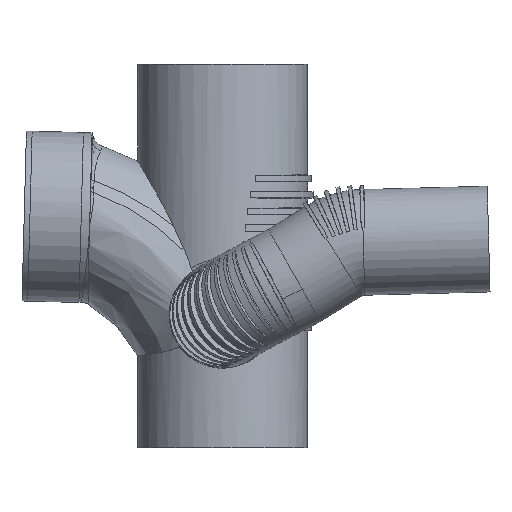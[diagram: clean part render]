
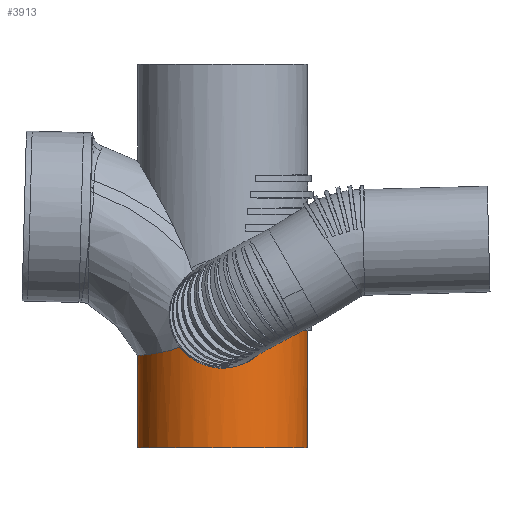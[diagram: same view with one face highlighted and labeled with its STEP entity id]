
A CAD part, front view. The second image highlights one B-rep face of the part: STEP entity #3913.
In plain terms, the highlighted cylindrical face has radius 45.188 mm (diameter 90.375 mm), a partial arc.
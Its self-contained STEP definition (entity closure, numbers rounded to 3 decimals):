
#239=FACE_OUTER_BOUND('',#468,.T.);
#468=EDGE_LOOP('',(#2419,#2420,#2421,#2422,#2423,#2424,#2425,#2426,#2427));
#718=LINE('',#5549,#805);
#719=LINE('',#5553,#806);
#805=VECTOR('',#4510,1.);
#806=VECTOR('',#4513,45.188);
#889=CIRCLE('',#4165,45.189);
#890=CIRCLE('',#4166,27.211);
#896=CIRCLE('',#4173,45.187);
#1054=B_SPLINE_CURVE_WITH_KNOTS('',3,(#5514,#5515,#5516,#5517,#5518,#5519,
#5520,#5521),.UNSPECIFIED.,.F.,.F.,(4,2,2,4),(-2.334,-1.752,
-1.166,0.),.UNSPECIFIED.);
#1055=B_SPLINE_CURVE_WITH_KNOTS('',3,(#5523,#5524,#5525,#5526,#5527,#5528,
#5529,#5530,#5531,#5532,#5533,#5534),.UNSPECIFIED.,.F.,.F.,(4,2,2,2,2,4),
(-4.077,-3.545,-3.015,-2.04,
-1.048,0.),.UNSPECIFIED.);
#1056=B_SPLINE_CURVE_WITH_KNOTS('',3,(#5536,#5537,#5538,#5539,#5540,#5541,
#5542,#5543,#5544,#5545,#5546,#5547),.UNSPECIFIED.,.F.,.F.,(4,2,2,2,2,4),
(-4.91,-3.562,-2.376,-0.9,
-0.426,0.),.UNSPECIFIED.);
#1057=B_SPLINE_CURVE_WITH_KNOTS('',3,(#5554,#5555,#5556,#5557,#5558,#5559,
#5560,#5561,#5562,#5563),.UNSPECIFIED.,.F.,.F.,(4,2,2,2,4),(-3.4,
-2.553,-1.702,-0.851,0.),
 .UNSPECIFIED.);
#1381=VERTEX_POINT('',#5254);
#1382=VERTEX_POINT('',#5274);
#1383=VERTEX_POINT('',#5276);
#1405=VERTEX_POINT('',#5513);
#1406=VERTEX_POINT('',#5522);
#1407=VERTEX_POINT('',#5535);
#1408=VERTEX_POINT('',#5548);
#1409=VERTEX_POINT('',#5550);
#1410=VERTEX_POINT('',#5552);
#1781=EDGE_CURVE('',#1381,#1382,#889,.F.);
#1782=EDGE_CURVE('',#1382,#1383,#890,.T.);
#1805=EDGE_CURVE('',#1381,#1405,#1054,.T.);
#1806=EDGE_CURVE('',#1405,#1406,#1055,.T.);
#1807=EDGE_CURVE('',#1406,#1407,#1056,.T.);
#1808=EDGE_CURVE('',#1407,#1408,#718,.T.);
#1809=EDGE_CURVE('',#1409,#1408,#896,.T.);
#1810=EDGE_CURVE('',#1410,#1409,#719,.T.);
#1811=EDGE_CURVE('',#1383,#1410,#1057,.T.);
#2419=ORIENTED_EDGE('',*,*,#1805,.T.);
#2420=ORIENTED_EDGE('',*,*,#1806,.T.);
#2421=ORIENTED_EDGE('',*,*,#1807,.T.);
#2422=ORIENTED_EDGE('',*,*,#1808,.T.);
#2423=ORIENTED_EDGE('',*,*,#1809,.F.);
#2424=ORIENTED_EDGE('',*,*,#1810,.F.);
#2425=ORIENTED_EDGE('',*,*,#1811,.F.);
#2426=ORIENTED_EDGE('',*,*,#1782,.F.);
#2427=ORIENTED_EDGE('',*,*,#1781,.F.);
#3622=CYLINDRICAL_SURFACE('',#4172,45.187);
#3913=ADVANCED_FACE('',(#239),#3622,.T.);
#4165=AXIS2_PLACEMENT_3D('',#5275,#4491,#4492);
#4166=AXIS2_PLACEMENT_3D('',#5277,#4493,#4494);
#4172=AXIS2_PLACEMENT_3D('',#5512,#4508,#4509);
#4173=AXIS2_PLACEMENT_3D('',#5551,#4511,#4512);
#4491=DIRECTION('center_axis',(-0.008,0.,
-1.));
#4492=DIRECTION('ref_axis',(0.628,-0.778,-0.005));
#4493=DIRECTION('center_axis',(0.658,-0.753,0.024));
#4494=DIRECTION('ref_axis',(0.714,0.613,-0.338));
#4508=DIRECTION('center_axis',(0.,0.,
-1.));
#4509=DIRECTION('ref_axis',(1.,0.,0.));
#4510=DIRECTION('',(0.,0.,-1.));
#4511=DIRECTION('center_axis',(0.,0.,
-1.));
#4512=DIRECTION('ref_axis',(1.,0.,0.));
#4513=DIRECTION('',(0.,0.,-1.));
#5254=CARTESIAN_POINT('',(26.861,-36.337,62.137));
#5274=CARTESIAN_POINT('',(31.912,-31.992,62.097));
#5275=CARTESIAN_POINT('Origin',(0.001,0.002,
62.337));
#5276=CARTESIAN_POINT('',(31.982,-31.922,62.366));
#5277=CARTESIAN_POINT('Origin',(12.553,-48.609,71.559));
#5512=CARTESIAN_POINT('Origin',(0.,0.,
19.19));
#5513=CARTESIAN_POINT('',(13.044,-43.263,45.51));
#5514=CARTESIAN_POINT('Ctrl Pts',(26.861,-36.337,62.137));
#5515=CARTESIAN_POINT('Ctrl Pts',(26.32,-36.737,60.326));
#5516=CARTESIAN_POINT('Ctrl Pts',(25.603,-37.248,58.599));
#5517=CARTESIAN_POINT('Ctrl Pts',(23.85,-38.395,55.335));
#5518=CARTESIAN_POINT('Ctrl Pts',(22.811,-39.03,53.801));
#5519=CARTESIAN_POINT('Ctrl Pts',(19.291,-40.95,49.579));
#5520=CARTESIAN_POINT('Ctrl Pts',(16.381,-42.257,47.231));
#5521=CARTESIAN_POINT('Ctrl Pts',(13.044,-43.263,45.51));
#5522=CARTESIAN_POINT('',(-22.675,-39.086,53.528));
#5523=CARTESIAN_POINT('Ctrl Pts',(13.044,-43.263,45.51));
#5524=CARTESIAN_POINT('Ctrl Pts',(11.519,-43.723,44.723));
#5525=CARTESIAN_POINT('Ctrl Pts',(9.911,-44.12,44.071));
#5526=CARTESIAN_POINT('Ctrl Pts',(6.566,-44.74,43.064));
#5527=CARTESIAN_POINT('Ctrl Pts',(4.844,-44.961,42.713));
#5528=CARTESIAN_POINT('Ctrl Pts',(-0.147,-45.303,42.172));
#5529=CARTESIAN_POINT('Ctrl Pts',(-3.396,-45.171,42.374));
#5530=CARTESIAN_POINT('Ctrl Pts',(-9.737,-44.244,43.852));
#5531=CARTESIAN_POINT('Ctrl Pts',(-12.724,-43.452,45.122));
#5532=CARTESIAN_POINT('Ctrl Pts',(-18.225,-41.458,48.624));
#5533=CARTESIAN_POINT('Ctrl Pts',(-20.686,-40.24,50.897));
#5534=CARTESIAN_POINT('Ctrl Pts',(-22.675,-39.086,53.528));
#5535=CARTESIAN_POINT('',(-45.188,0.,49.032));
#5536=CARTESIAN_POINT('Ctrl Pts',(-22.675,-39.086,53.528));
#5537=CARTESIAN_POINT('Ctrl Pts',(-25.607,-37.385,52.321));
#5538=CARTESIAN_POINT('Ctrl Pts',(-28.854,-35.056,51.486));
#5539=CARTESIAN_POINT('Ctrl Pts',(-34.731,-29.169,50.31));
#5540=CARTESIAN_POINT('Ctrl Pts',(-37.138,-26.043,49.964));
#5541=CARTESIAN_POINT('Ctrl Pts',(-41.567,-18.387,49.387));
#5542=CARTESIAN_POINT('Ctrl Pts',(-43.321,-13.762,49.214));
#5543=CARTESIAN_POINT('Ctrl Pts',(-44.607,-7.391,49.087));
#5544=CARTESIAN_POINT('Ctrl Pts',(-44.838,-5.825,49.065));
#5545=CARTESIAN_POINT('Ctrl Pts',(-45.121,-2.837,49.038));
#5546=CARTESIAN_POINT('Ctrl Pts',(-45.188,-1.419,49.032));
#5547=CARTESIAN_POINT('Ctrl Pts',(-45.188,0.,
49.032));
#5548=CARTESIAN_POINT('',(-45.188,0.,0.));
#5549=CARTESIAN_POINT('',(-45.188,0.,19.19));
#5550=CARTESIAN_POINT('',(45.187,0.,0.));
#5551=CARTESIAN_POINT('Origin',(0.,0.,
0.));
#5552=CARTESIAN_POINT('',(45.187,0.,62.259));
#5553=CARTESIAN_POINT('',(45.187,0.,19.19));
#5554=CARTESIAN_POINT('Ctrl Pts',(31.982,-31.922,62.366));
#5555=CARTESIAN_POINT('Ctrl Pts',(33.977,-29.924,62.35));
#5556=CARTESIAN_POINT('Ctrl Pts',(35.849,-27.667,62.335));
#5557=CARTESIAN_POINT('Ctrl Pts',(39.159,-22.744,62.308));
#5558=CARTESIAN_POINT('Ctrl Pts',(40.595,-20.075,62.297));
#5559=CARTESIAN_POINT('Ctrl Pts',(42.901,-14.509,62.278));
#5560=CARTESIAN_POINT('Ctrl Pts',(43.772,-11.606,62.271));
#5561=CARTESIAN_POINT('Ctrl Pts',(44.916,-5.77,62.261));
#5562=CARTESIAN_POINT('Ctrl Pts',(45.187,-2.837,62.259));
#5563=CARTESIAN_POINT('Ctrl Pts',(45.187,0.,
62.259));
